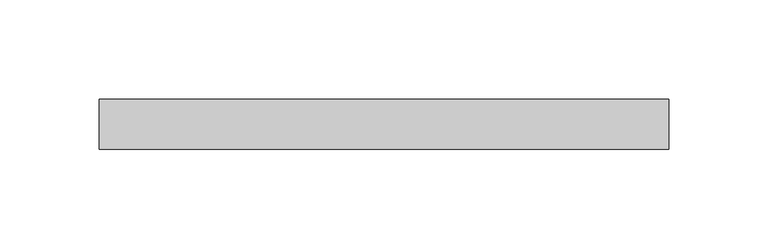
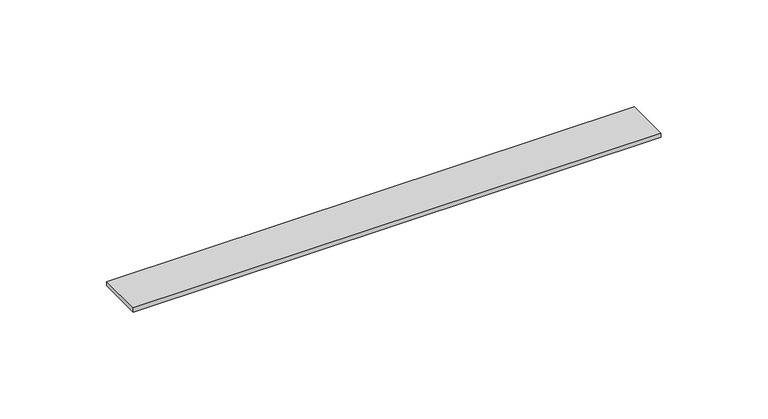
"""IFC4 building model written with IfcOpenShell, lengths in millimetres: plate geometry, Системная панель : С остеклением."""

from ifc_helpers import new_model, si_unit, origin, origin_with_axes, place, context, project, spatial, polyline, outline, extrude, source, transform, mapped, element, save


def plate_7d1b6532(model_context):
    return source(origin(), model_context, "Body", "SweptSolid", [
        extrude(outline(polyline([(143.0, 24.5), (-143.0, 24.5), (-143.0, 49.5), (143.0, 49.5), (143.0, 24.5)])), origin_with_axes(), (0.0, 0.0, 1.0), 2.3130314),
    ])


if __name__ == "__main__":
    model = new_model("IFC4")
    model_context = context("Model", 3, world=origin())
    ifc_project = project(units=[si_unit("LENGTHUNIT", "METRE", prefix="MILLI")], contexts=[model_context])
    site = spatial("IfcSite", under=ifc_project)
    building = spatial("IfcBuilding", under=site)
    placement = place(None, origin())
    plate_shape = plate_7d1b6532(model_context)
    element("IfcPlate", 1, ObjectType="Системная панель : С остеклением", at=placement, inside=building, context=model_context, shape_type="MappedRepresentation", body=[
        mapped(plate_shape, transform((0.0, 0.0, 0.0), x_axis=(1.0, 0.0, 0.0), y_axis=(0.0, 1.0, 0.0), z_axis=(0.0, 0.0, 1.0))),
    ])
    save(model, "model.ifc")
